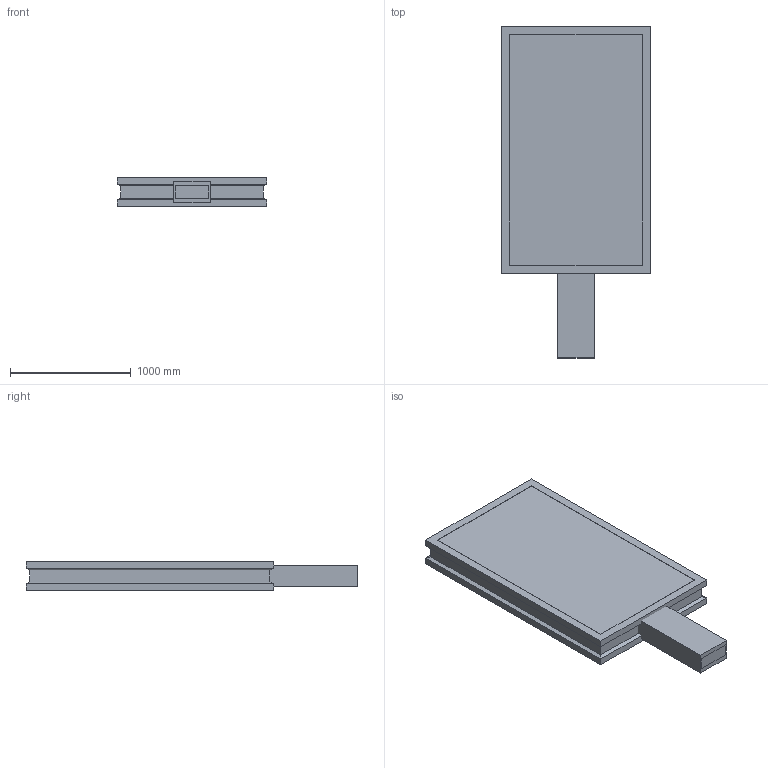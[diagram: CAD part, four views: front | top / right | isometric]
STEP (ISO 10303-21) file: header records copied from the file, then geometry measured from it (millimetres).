
FILE_DESCRIPTION (( 'STEP AP214' ), '1' );
FILE_NAME ('NAB-AL-Almere-2m2.STEP', '2020-02-16T20:57:11', ( '' ), ( '' ), 'SwSTEP 2.0', 'SolidWorks 2016', '' );
FILE_SCHEMA (( 'AUTOMOTIVE_DESIGN' ));
Length unit declared in the file: millimetre
Products named in the file (1): NAB-AL-Almere-2m2
Bounding box: 1240 x 2750 x 240 mm (x, y, z)
Volume: 706454850 mm3; surface area: 12396130 mm2
Topology: 4 solids, 4 shells, 47 faces, 99 edges, 60 vertices
Faces by surface type: plane 47
Entity records: 1296 total; most frequent: CARTESIAN_POINT 207, ORIENTED_EDGE 198, DIRECTION 195, EDGE_CURVE 99, VECTOR 99, LINE 99, VERTEX_POINT 60, EDGE_LOOP 49
